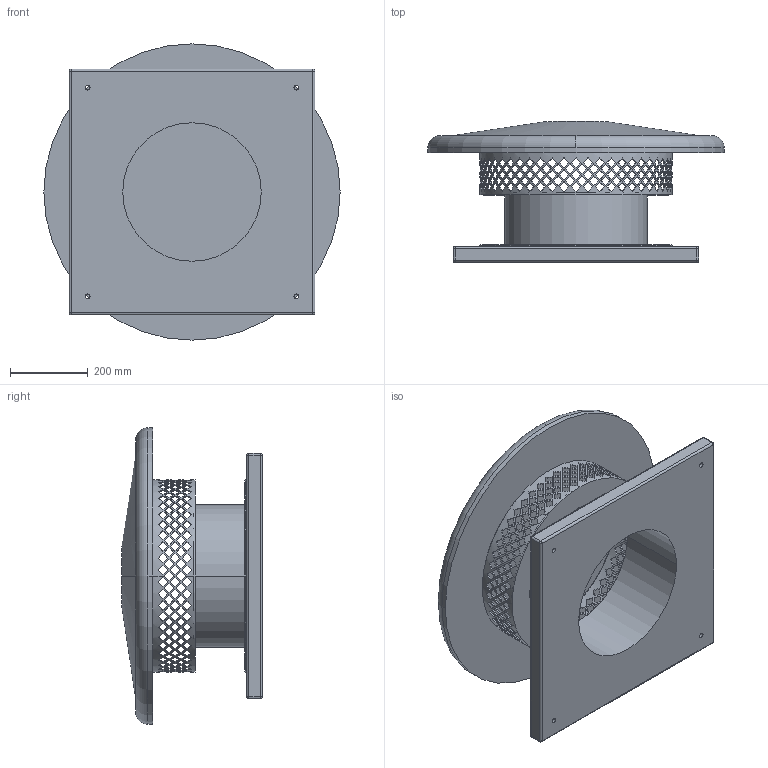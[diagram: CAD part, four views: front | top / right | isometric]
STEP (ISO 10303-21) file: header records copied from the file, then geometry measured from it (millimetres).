
FILE_DESCRIPTION(('STEP AP214'),'1');
FILE_NAME('fan_5113432800.stp','2017-03-31T12:42:30',('TraceParts'),('TraceParts S.A.'),'Spatial InterOp 3D',' ',' ');
FILE_SCHEMA(('automotive_design'));
Length unit declared in the file: millimetre
Products named in the file (1): fan_5113432800
Bounding box: 760 x 361 x 760 mm (x, y, z)
Volume: 38044833.2 mm3; surface area: 2409031.7 mm2
Topology: 1 solids, 1 shells, 1059 faces, 3160 edges, 2094 vertices
Faces by surface type: plane 1013, cylinder 32, sphere 8, torus 4, cone 2
Entity records: 46332 total; most frequent: DIRECTION 7370, CARTESIAN_POINT 6306, ORIENTED_EDGE 6304, AXIS2_PLACEMENT_3D 3158, EDGE_CURVE 3152, VERTEX_POINT 2094, ELLIPSE 2016, EDGE_LOOP 1566
